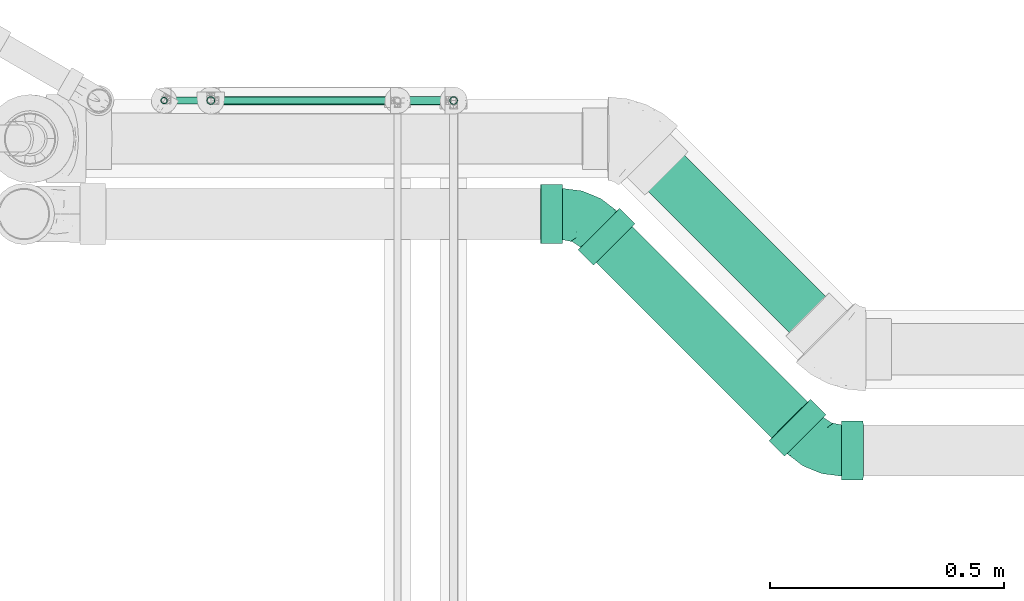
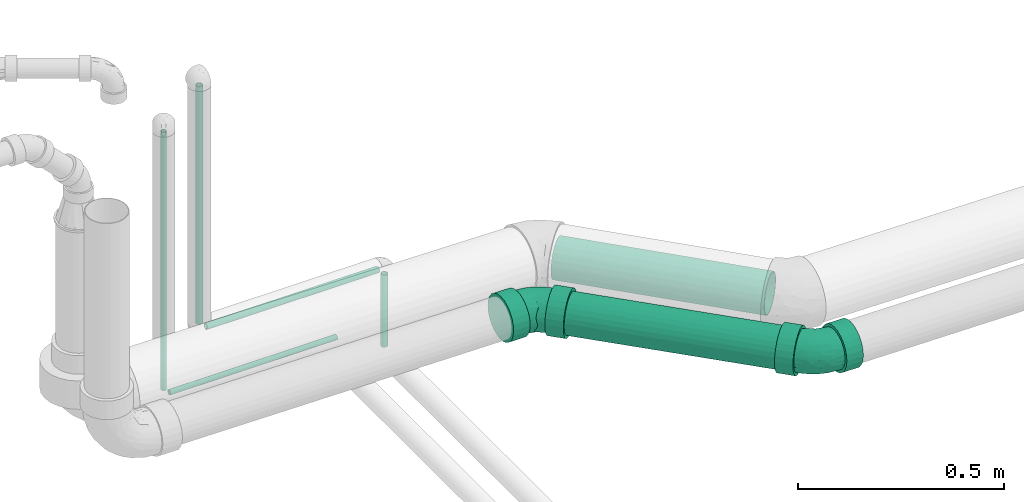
# One storey, part 33 of 78: 7 flow segments, 2 flow fittings.
"""IFC2X3 building model written with IfcOpenShell, lengths in millimetres."""

from ifc_helpers import new_model, entity, si_unit, converted_unit, derived_unit, direction, frame, origin_with_axes, origin_2d_with_axis, place, context, subcontext, project, spatial, hollow_circle, extrude, open_shell, surface_model, source, transform, mapped, type_object, element, save


model = new_model("IFC2X3")

# Units and contexts
model_context = context("Model", 3, precision=0.01, world=frame((0.0, 4.29681676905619e-09, 0.0)), true_north=direction((4.01073788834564e-13, 1.0)))
plan_context = context("Plan", 3, precision=0.01, world=frame((0.0, 4.29681676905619e-09, 0.0)), true_north=direction((4.01073788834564e-13, 1.0)))
body_context = subcontext(model_context, "Body", "Model", "MODEL_VIEW")
ifc_project = project(units=[converted_unit("PLANEANGLEUNIT", "DEGREE", entity("IfcPositiveLengthMeasure", 0.0174532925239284), si_unit("PLANEANGLEUNIT", "RADIAN"), dimensions=[0, 0, 0, 0, 0, 0, 0]), si_unit("AREAUNIT", "SQUARE_METRE"), si_unit("LENGTHUNIT", "METRE", prefix="MILLI"), si_unit("MASSUNIT", "GRAM", prefix="KILO"), si_unit("POWERUNIT", "WATT"), si_unit("PRESSUREUNIT", "PASCAL"), si_unit("FORCEUNIT", "NEWTON", prefix="KILO"), si_unit("ELECTRICVOLTAGEUNIT", "VOLT"), si_unit("ELECTRICCURRENTUNIT", "AMPERE"), si_unit("THERMODYNAMICTEMPERATUREUNIT", "DEGREE_CELSIUS"), si_unit("TIMEUNIT", "SECOND"), si_unit("VOLUMEUNIT", "CUBIC_METRE"), derived_unit("LINEARVELOCITYUNIT", [(si_unit("LENGTHUNIT", "METRE"), 1), (si_unit("TIMEUNIT", "SECOND"), -1)]), derived_unit("VOLUMETRICFLOWRATEUNIT", [(si_unit("VOLUMEUNIT", "CUBIC_METRE"), 1), (si_unit("TIMEUNIT", "SECOND"), -1)]), derived_unit("THERMALTRANSMITTANCEUNIT", [(si_unit("POWERUNIT", "WATT"), 1), (si_unit("THERMODYNAMICTEMPERATUREUNIT", "KELVIN"), -1), (si_unit("AREAUNIT", "SQUARE_METRE"), -1)]), derived_unit("SOUNDPRESSUREUNIT", [(si_unit("PRESSUREUNIT", "PASCAL"), 1)])], contexts=[model_context, plan_context])

# Site, building, storey
site_placement = place(None, frame((0.0, -4.29681676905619e-09, 0.0), z_axis=(0.0, 0.0, 1.0), x_axis=(1.0, 0.0, 0.0)))
site = spatial("IfcSite", under=ifc_project, at=site_placement, Name="ENGM", CompositionType="ELEMENT")
building_placement = place(site_placement, frame((0.0, 4.29681676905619e-09, 0.0), z_axis=(0.0, 0.0, 1.0), x_axis=(1.0, 0.0, 0.0)))
building = spatial("IfcBuilding", under=site, at=building_placement, Name="TH", CompositionType="ELEMENT")
storey_placement = place(building_placement, frame((0.0, 0.0, 205200.0), z_axis=(0.0, 0.0, 1.0), x_axis=(1.0, 0.0, 0.0)))
storey = spatial("IfcBuildingStorey", under=building, at=storey_placement, Name="Nivå D + 1,2 m", CompositionType="ELEMENT", Elevation=205200.0)

# Flow fittings
pipe_fitting_type = type_object("IfcPipeFittingType", Name="magi_sewer_bend_NOR", PredefinedType="BEND")
shared_shape_1 = source(origin_with_axes(), body_context, "Body", "SurfaceModel", [
    surface_model("IfcShellBasedSurfaceModel", [(-92.06082, -31.5, -54.5596), (-92.06082, 0.0, -63.0), (-92.06082, -16.3056, -60.85333), (-92.06082, -60.85333, -16.3056), (-92.06082, -44.54773, -44.54773), (-92.06082, 31.5, -54.5596), (-92.06082, -54.5596, -31.5), (-92.06082, 54.5596, -31.5), (-92.06082, -63.0, 0.0), (-92.06082, 16.3056, -60.85333), (-92.06082, 44.54773, -44.54773), (-92.06082, 63.0, 0.0), (-92.06082, 60.85333, -16.3056), (-92.06082, 54.5596, 31.5), (-92.06082, -60.85333, 16.3056), (-92.06082, -54.5596, 31.5), (-92.06082, -44.54773, 44.54773), (-92.06082, 0.0, 63.0), (-92.06082, -31.5, 54.5596), (-92.06082, -16.3056, 60.85333), (-92.06082, 31.5, 54.5596), (-92.06082, 60.85333, 16.3056), (-92.06082, 44.54773, 44.54773), (-92.06082, 16.3056, 60.85333), (-45.56082, 0.0, 63.0), (-45.56082, -16.3056, 60.85333), (-45.56082, -31.5, 54.5596), (-45.56082, -44.54773, 44.54773), (-45.56082, -54.5596, 31.5), (-45.56082, -60.85333, 16.3056), (-45.56082, 54.5596, 31.5), (-45.56082, -63.0, 0.0), (-45.56082, 31.5, 54.5596), (-45.56082, 44.54773, 44.54773), (-45.56082, 16.3056, 60.85333), (-45.56082, 63.0, 0.0), (-45.56082, 60.85333, 16.3056), (-45.56082, 54.5596, -31.5), (-45.56082, -60.85333, -16.3056), (-45.56082, -44.54773, -44.54773), (-45.56082, -54.5596, -31.5), (-45.56082, -31.5, -54.5596), (-45.56082, 31.5, -54.5596), (-45.56082, -16.3056, -60.85333), (-45.56082, 0.0, -63.0), (-45.56082, 44.54773, -44.54773), (-45.56082, 60.85333, -16.3056), (-45.56082, 16.3056, -60.85333), (26.52166, 103.67519, 31.5), (20.55365, 109.64371, 0.0), (22.07151, 108.12572, 16.3056), (53.5702, 76.62441, 60.85333), (33.60083, 96.59544, 44.54773), (26.52166, 103.67519, -31.5), (42.82659, 87.36892, 54.5596), (65.09953, 65.09414, 63.0), (22.07151, 108.12572, -16.3056), (42.82659, 87.36892, -54.5596), (33.60083, 96.59544, -44.54773), (65.09953, 65.09414, -63.0), (53.5702, 76.62441, -60.85333), (87.37247, 42.81935, -54.5596), (76.62885, 53.56386, 60.85333), (87.37247, 42.81935, 54.5596), (96.59823, 33.59283, 44.54773), (108.12755, 22.06255, 16.3056), (103.67739, 26.51308, 31.5), (108.12755, 22.06255, -16.3056), (109.64541, 20.54456, 0.0), (76.62885, 53.56386, -60.85333), (96.59823, 33.59283, -44.54773), (103.67739, 26.51308, -31.5), (76.76358, -12.33454, 0.0), (75.24572, -10.81655, 16.3056), (70.79557, -6.36603, 31.5), (70.79557, -6.36603, -31.5), (54.49064, 9.94025, 54.5596), (63.7164, 0.71373, 44.54773), (20.68838, 43.74531, 60.85333), (54.49064, 9.94025, -54.5596), (63.7164, 0.71373, -44.54773), (75.24572, -10.81655, -16.3056), (32.2177, 32.21503, -63.0), (43.74703, 20.68475, -60.85333), (9.94476, 54.48982, -54.5596), (32.2177, 32.21503, 63.0), (43.74703, 20.68475, 60.85333), (-6.36016, 70.79609, -31.5), (0.71901, 63.71634, 44.54773), (9.94476, 54.48982, 54.5596), (-6.36016, 70.79609, 31.5), (-10.81032, 75.24662, 16.3056), (0.71901, 63.71634, -44.54773), (20.68838, 43.74531, -60.85333), (-12.32818, 76.7646, 0.0), (-10.81032, 75.24662, -16.3056), (-45.56082, 14.23505, -53.12592), (-45.56082, 0.0, -55.0), (-45.56082, 38.89087, -38.89087), (-45.56082, 27.5, -47.63139), (-45.56082, -47.63139, -27.5), (-45.56082, 47.63139, -27.5), (-45.56082, 53.12592, 14.23505), (-45.56082, -14.23505, -53.12592), (-45.56082, -27.5, -47.63139), (-45.56082, -38.89087, -38.89087), (-45.56082, -53.12592, -14.23505), (-45.56082, -55.0, 0.0), (-45.56082, -47.63139, 27.5), (-45.56082, 53.12592, -14.23505), (-45.56082, 47.63139, 27.5), (-45.56082, 27.5, 47.63139), (-45.56082, 38.89087, 38.89087), (-45.56082, 14.23505, 53.12592), (-45.56082, 0.0, 55.0), (-45.56082, -38.89087, 38.89087), (-45.56082, -27.5, 47.63139), (-45.56082, -53.12592, 14.23505), (-45.56082, -14.23505, 53.12592), (-45.56082, 55.0, 0.0), (-5.34644, 69.78229, -14.23505), (32.2177, 32.21503, -55.0), (22.15242, 42.28115, -53.12592), (4.71884, 59.71617, -38.89087), (12.77307, 51.66127, -47.63139), (-1.46139, 65.89691, -27.5), (59.71656, 4.71389, -38.89087), (51.66233, 12.76879, -47.63139), (42.28298, 22.14892, -53.12592), (65.89679, -1.46685, -27.5), (71.10697, -6.67745, 0.0), (69.78185, -5.35222, -14.23505), (65.89679, -1.46685, 27.5), (-6.67156, 71.10751, 0.0), (4.71884, 59.71617, 38.89087), (-5.34644, 69.78229, 14.23505), (-1.46139, 65.89691, 27.5), (12.77307, 51.66127, 47.63139), (22.15242, 42.28115, 53.12592), (32.2177, 32.21503, 55.0), (51.66233, 12.76879, 47.63139), (59.71656, 4.71389, 38.89087), (69.78185, -5.35222, 14.23505), (42.28298, 22.14892, 53.12592), (14.00778, -33.81974, 30.65014), (-12.16629, -31.08486, 42.44025), (-17.75771, -42.06457, 32.20469), (-18.37385, -51.42096, 0.0), (-2.85788, -49.37835, 0.0), (-11.73778, -50.67069, 9.39198), (42.30003, -17.18929, 32.20469), (-21.79192, -20.16817, 50.26724), (5.64726, -13.6345, 49.57433), (1.63347, 33.06398, 51.3346), (9.94219, 26.03311, 54.19994), (-16.41313, -5.29559, 54.27137), (-5.2307, 12.62876, 54.80671), (-27.55609, 7.62134, 54.66621), (-15.62176, 37.71647, 44.90216), (-24.2523, 46.12563, 34.70863), (29.67032, 1.14694, 50.26724), (-21.1305, 22.88699, 51.41721), (21.2239, -35.99854, 21.67636), (-9.86029, -47.58356, 19.10026), (17.07559, -41.22654, 11.95486), (-22.65603, 54.6997, 22.59621), (44.12831, -27.53155, 9.39198), (49.35142, -23.36988, 0.0), (-22.02915, 58.93321, 11.55606), (40.61783, -26.67606, 19.10026), (15.35071, 7.86065, 54.27137), (30.58263, -13.37871, 42.44025), (-24.51429, 59.18619, 0.0), (9.23126, -22.28753, 43.86006), (17.03868, -41.13741, 0.0), (36.93523, -32.89647, 0.0), (-16.41313, -5.29559, -54.27137), (-11.73779, -50.67069, -9.39197), (17.07559, -41.22654, -11.95486), (15.35071, 7.86065, -54.27137), (-24.53388, 22.22575, -51.3346), (-25.43791, 11.37906, -54.19994), (-15.46472, 49.76535, -34.70863), (30.58263, -13.37871, -42.44025), (-22.65603, 54.6997, -22.59621), (40.61783, -26.67606, -19.10026), (-26.09274, 57.25011, -11.55606), (-1.24074, 31.12512, -51.41721), (-9.86029, -47.58356, -19.10026), (-15.62176, 37.71647, -44.90217), (-17.75771, -42.06457, -32.20469), (-12.16629, -31.08486, -42.44025), (9.23126, -22.28753, -43.86006), (14.00778, -33.81974, -30.65014), (-21.79192, -20.16817, -50.26724), (29.67032, 1.14694, -50.26724), (5.64726, -13.6345, -49.57433), (44.12831, -27.53155, -9.39197), (14.09703, 24.87362, -54.66621), (10.44557, -40.46281, -21.67636), (42.30003, -17.18929, -32.20469), (-5.2307, 12.62876, -54.80671)], [open_shell([[[0, 1, 2]], [[3, 0, 4]], [[5, 0, 3]], [[3, 4, 6]], [[7, 3, 8]], [[1, 5, 9]], [[1, 0, 5]], [[5, 7, 10]], [[3, 7, 5]], [[7, 11, 12]], [[7, 8, 13]], [[14, 15, 16]], [[14, 16, 17]], [[18, 19, 17]], [[18, 17, 16]], [[14, 17, 20]], [[11, 13, 21]], [[7, 13, 11]], [[13, 20, 22]], [[14, 20, 13]], [[17, 23, 20]], [[13, 8, 14]], [[24, 25, 26]], [[24, 26, 27]], [[27, 28, 29]], [[24, 27, 30]], [[27, 31, 30]], [[32, 30, 33]], [[32, 34, 24]], [[30, 35, 36]], [[30, 32, 24]], [[37, 35, 30]], [[27, 29, 31]], [[38, 37, 31]], [[39, 38, 40]], [[38, 41, 42]], [[41, 38, 39]], [[43, 44, 41]], [[37, 42, 45]], [[46, 35, 37]], [[42, 44, 47]], [[42, 37, 38]], [[44, 42, 41]], [[37, 30, 31]], [[46, 12, 35]], [[37, 7, 46]], [[5, 45, 42]], [[37, 45, 10]], [[9, 42, 47]], [[46, 7, 12]], [[12, 11, 35]], [[9, 5, 42]], [[10, 45, 5]], [[10, 7, 37]], [[1, 9, 47]], [[47, 44, 1]], [[0, 41, 39]], [[6, 40, 38]], [[39, 40, 4]], [[31, 3, 38]], [[41, 2, 43]], [[41, 0, 2]], [[2, 1, 43]], [[39, 4, 0]], [[40, 6, 4]], [[3, 6, 38]], [[31, 8, 3]], [[43, 1, 44]], [[29, 14, 31]], [[28, 15, 29]], [[18, 27, 26]], [[28, 27, 16]], [[19, 26, 25]], [[29, 15, 14]], [[14, 8, 31]], [[19, 18, 26]], [[16, 27, 18]], [[16, 15, 28]], [[17, 19, 25]], [[25, 24, 17]], [[23, 34, 32]], [[33, 20, 32]], [[13, 30, 36]], [[33, 30, 22]], [[21, 36, 35]], [[34, 23, 24]], [[32, 20, 23]], [[24, 23, 17]], [[33, 22, 20]], [[30, 13, 22]], [[21, 13, 36]], [[35, 11, 21]], [[48, 49, 50]], [[51, 48, 52]], [[53, 48, 51]], [[51, 52, 54]], [[53, 51, 55]], [[49, 53, 56]], [[49, 48, 53]], [[53, 57, 58]], [[57, 53, 59]], [[59, 60, 57]], [[61, 53, 55]], [[62, 63, 64]], [[62, 64, 65]], [[62, 65, 61]], [[65, 64, 66]], [[67, 65, 68]], [[59, 61, 69]], [[53, 61, 59]], [[70, 67, 71]], [[67, 70, 61]], [[65, 67, 61]], [[61, 55, 62]], [[72, 73, 74]], [[75, 72, 74]], [[75, 74, 76]], [[76, 74, 77]], [[78, 79, 76]], [[75, 79, 80]], [[75, 81, 72]], [[79, 82, 83]], [[79, 75, 76]], [[84, 82, 79]], [[85, 76, 86]], [[79, 78, 87]], [[88, 78, 89]], [[87, 88, 90]], [[87, 78, 88]], [[91, 87, 90]], [[84, 87, 92]], [[93, 82, 84]], [[87, 94, 95]], [[84, 79, 87]], [[94, 87, 91]], [[76, 85, 78]], [[93, 60, 82]], [[84, 57, 93]], [[53, 92, 87]], [[84, 92, 58]], [[56, 87, 95]], [[93, 57, 60]], [[60, 59, 82]], [[56, 53, 87]], [[58, 92, 53]], [[58, 57, 84]], [[49, 56, 95]], [[95, 94, 49]], [[48, 90, 88]], [[54, 89, 78]], [[88, 89, 52]], [[85, 51, 78]], [[90, 50, 91]], [[90, 48, 50]], [[50, 49, 91]], [[88, 52, 48]], [[89, 54, 52]], [[51, 54, 78]], [[85, 55, 51]], [[91, 49, 94]], [[86, 62, 85]], [[76, 63, 86]], [[66, 77, 74]], [[76, 77, 64]], [[65, 74, 73]], [[86, 63, 62]], [[62, 55, 85]], [[65, 66, 74]], [[64, 77, 66]], [[64, 63, 76]], [[68, 65, 73]], [[73, 72, 68]], [[67, 81, 75]], [[80, 71, 75]], [[61, 79, 83]], [[80, 79, 70]], [[69, 83, 82]], [[81, 67, 72]], [[75, 71, 67]], [[72, 67, 68]], [[80, 70, 71]], [[79, 61, 70]], [[69, 61, 83]], [[82, 59, 69]], [[96, 97, 98]], [[99, 96, 98]], [[100, 101, 97]], [[98, 97, 101]], [[101, 100, 102]], [[103, 104, 97]], [[104, 105, 97]], [[106, 107, 100]], [[100, 97, 105]], [[107, 108, 100]], [[109, 101, 102]], [[110, 102, 100]], [[110, 100, 108]], [[111, 112, 108]], [[108, 112, 110]], [[113, 111, 114]], [[115, 116, 108]], [[108, 107, 117]], [[118, 114, 116]], [[108, 116, 114]], [[108, 114, 111]], [[102, 119, 109]], [[120, 121, 122]], [[123, 122, 124]], [[123, 125, 120]], [[123, 120, 122]], [[121, 120, 126]], [[121, 127, 128]], [[121, 126, 127]], [[129, 130, 131]], [[126, 120, 129]], [[129, 132, 130]], [[129, 120, 133]], [[134, 133, 135]], [[134, 135, 136]], [[134, 137, 138]], [[133, 134, 132]], [[139, 134, 138]], [[132, 140, 141]], [[142, 130, 132]], [[140, 139, 143]], [[139, 140, 132]], [[134, 139, 132]], [[132, 129, 133]], [[144, 145, 146]], [[147, 148, 149]], [[116, 115, 145]], [[132, 141, 150]], [[151, 145, 152]], [[146, 145, 115]], [[138, 153, 154]], [[118, 116, 151]], [[155, 156, 157]], [[114, 118, 155]], [[112, 158, 159]], [[140, 143, 160]], [[157, 113, 114]], [[111, 161, 158]], [[117, 147, 149]], [[137, 134, 158]], [[162, 163, 164]], [[158, 112, 111]], [[115, 108, 146]], [[110, 159, 165]], [[102, 110, 165]], [[142, 166, 167]], [[168, 119, 102]], [[169, 162, 164]], [[163, 149, 164]], [[111, 113, 161]], [[139, 154, 170]], [[141, 140, 171]], [[136, 135, 165]], [[170, 143, 139]], [[144, 146, 163]], [[141, 171, 150]], [[156, 154, 153]], [[171, 140, 160]], [[108, 163, 146]], [[166, 142, 169]], [[144, 150, 171]], [[157, 161, 113]], [[144, 162, 150]], [[102, 165, 168]], [[108, 117, 163]], [[172, 168, 133]], [[145, 173, 152]], [[135, 168, 165]], [[152, 170, 155]], [[136, 165, 159]], [[152, 160, 170]], [[136, 159, 134]], [[156, 155, 170]], [[138, 137, 153]], [[153, 158, 161]], [[151, 155, 118]], [[110, 112, 159]], [[169, 142, 132]], [[169, 132, 150]], [[173, 144, 171]], [[134, 159, 158]], [[158, 153, 137]], [[156, 153, 161]], [[145, 151, 116]], [[155, 151, 152]], [[170, 160, 143]], [[171, 160, 152]], [[117, 107, 147]], [[164, 148, 174]], [[117, 149, 163]], [[148, 164, 149]], [[166, 164, 175]], [[167, 166, 175]], [[167, 130, 142]], [[164, 166, 169]], [[170, 154, 156]], [[139, 138, 154]], [[155, 157, 114]], [[161, 157, 156]], [[144, 173, 145]], [[171, 152, 173]], [[133, 168, 135]], [[168, 172, 119]], [[150, 162, 169]], [[163, 162, 144]], [[175, 164, 174]], [[103, 97, 176]], [[148, 177, 178]], [[121, 128, 179]], [[180, 181, 96]], [[101, 182, 98]], [[127, 126, 183]], [[184, 182, 101]], [[129, 131, 185]], [[109, 186, 184]], [[124, 122, 187]], [[106, 177, 147]], [[99, 180, 96]], [[177, 106, 188]], [[123, 189, 182]], [[188, 100, 190]], [[190, 105, 191]], [[105, 104, 191]], [[192, 193, 191]], [[106, 100, 188]], [[105, 190, 100]], [[194, 104, 103]], [[195, 179, 128]], [[120, 125, 184]], [[196, 194, 176]], [[119, 172, 186]], [[193, 190, 191]], [[133, 120, 186]], [[196, 176, 179]], [[123, 124, 189]], [[184, 101, 109]], [[125, 182, 184]], [[194, 191, 104]], [[187, 189, 124]], [[181, 176, 97]], [[189, 187, 180]], [[98, 189, 99]], [[131, 167, 197]], [[198, 122, 121]], [[195, 128, 127]], [[199, 185, 178]], [[126, 200, 183]], [[196, 195, 183]], [[126, 129, 200]], [[201, 198, 179]], [[200, 193, 183]], [[201, 179, 176]], [[197, 167, 175]], [[198, 187, 122]], [[201, 181, 180]], [[177, 188, 178]], [[193, 199, 190]], [[183, 192, 196]], [[129, 185, 200]], [[120, 184, 186]], [[193, 200, 185]], [[125, 123, 182]], [[98, 182, 189]], [[189, 180, 99]], [[201, 180, 187]], [[176, 194, 103]], [[191, 194, 196]], [[183, 195, 127]], [[179, 195, 196]], [[147, 177, 148]], [[147, 107, 106]], [[199, 178, 188]], [[197, 178, 185]], [[178, 175, 174]], [[131, 130, 167]], [[178, 197, 175]], [[131, 197, 185]], [[176, 181, 201]], [[97, 96, 181]], [[179, 198, 121]], [[187, 198, 201]], [[193, 192, 183]], [[191, 196, 192]], [[119, 186, 109]], [[186, 172, 133]], [[190, 199, 188]], [[185, 199, 193]], [[148, 178, 174]]])]),
])
for number, where, z_axis, x_axis, name in (
    (1, (900795.33738, 482601.83076, 4383.26745000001), (0.00999900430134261, -0.00414200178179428, 0.999941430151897), (0.707071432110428, -0.707071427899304, -0.00999928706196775), "magi_sewer_bend_NOR"),
    (2, (900289.04984, 483108.11831, 4390.42743000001), (0.00999900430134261, -0.00414200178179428, 0.999941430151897), (-0.707071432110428, 0.707071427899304, 0.00999928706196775), "magi_sewer_bend_NOR"),
):
    element("IfcFlowFitting", number, at=place(storey_placement, frame(where, z_axis=z_axis, x_axis=x_axis)), inside=storey, type_object=pipe_fitting_type, Name=name, context=body_context, shape_type="MappedRepresentation", body=[
        mapped(shared_shape_1, transform((0.0, 0.0, 0.0), scale=1.0)),
    ])

# Flow segments
pipe_segment_type_1 = type_object("IfcPipeSegmentType", Name="Kobberrør", PredefinedType="RIGIDSEGMENT")
shared_shape_2 = source(origin_with_axes(), body_context, "Body", "SweptSolid", [
    extrude(hollow_circle(Radius=9.0, WallThickness=2.0, at=origin_2d_with_axis()), frame((0.0, 0.0, 0.0), z_axis=(1.0, 0.0, 0.0), x_axis=(0.0, 1.0, 0.0)), (0.0, 0.0, 1.0), 706.1),
])
flow_segment_1_placement = place(storey_placement, frame((899490.50163, 483351.12945, 4478.0), z_axis=(1.0, 0.0, 0.0), x_axis=(0.0, -5.999999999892e-06, 0.999999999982)))
element("IfcFlowSegment", 3, at=flow_segment_1_placement, inside=storey, type_object=pipe_segment_type_1, Name="Kobberrør", context=body_context, shape_type="MappedRepresentation", body=[
    mapped(shared_shape_2, transform((0.0, 0.0, 0.0), scale=1.0)),
])
shared_shape_3 = source(origin_with_axes(), body_context, "Body", "SweptSolid", [
    extrude(hollow_circle(Radius=7.5, WallThickness=2.0, at=origin_2d_with_axis()), frame((0.0, 0.0, 0.0), z_axis=(1.0, 0.0, 0.0), x_axis=(0.0, 1.0, 0.0)), (0.0, 0.0, 1.0), 767.1),
])
flow_segment_2_placement = place(storey_placement, frame((899390.50163, 483351.12945, 4315.0), z_axis=(0.0, 1.0, 0.0), x_axis=(0.0, 0.0, 1.0)))
element("IfcFlowSegment", 4, at=flow_segment_2_placement, inside=storey, type_object=pipe_segment_type_1, Name="Kobberrør", context=body_context, shape_type="MappedRepresentation", body=[
    mapped(shared_shape_3, transform((0.0, 0.0, 0.0), scale=1.0)),
])
pipe_segment_type_2 = type_object("IfcPipeSegmentType", Name="MA", PredefinedType="RIGIDSEGMENT")
shared_shape_4 = source(origin_with_axes(), body_context, "Body", "SweptSolid", [
    extrude(hollow_circle(Radius=55.0, WallThickness=2.0, at=origin_2d_with_axis()), frame((0.0, 0.0, 0.0), z_axis=(1.0, 0.0, 0.0), x_axis=(0.0, 1.0, 0.0)), (0.0, 0.0, 1.0), 624.9),
])
flow_segment_3_placement = place(storey_placement, frame((900763.12262, 482634.04552, 4383.72302999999), z_axis=(-0.707071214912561, -0.707130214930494, 0.00414200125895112), x_axis=(-0.707071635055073, 0.707071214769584, 0.0100000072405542)))
element("IfcFlowSegment", 5, at=flow_segment_3_placement, inside=storey, type_object=pipe_segment_type_2, Name="MA", context=body_context, shape_type="MappedRepresentation", body=[
    mapped(shared_shape_4, transform((0.0, 0.0, 0.0), scale=1.0)),
])
pipe_segment_type_3 = type_object("IfcPipeSegmentType", Name="SUPER MA", PredefinedType="RIGIDSEGMENT")
shared_shape_5 = source(origin_with_axes(), body_context, "Body", "SweptSolid", [
    extrude(hollow_circle(Radius=55.0, WallThickness=2.0, at=origin_2d_with_axis()), frame((0.0, 0.0, 0.0), z_axis=(1.0, 0.0, 0.0), x_axis=(0.0, 1.0, 0.0)), (0.0, 0.0, 1.0), 537.4),
])
flow_segment_4_placement = place(storey_placement, frame((900426.98966, 483234.01728, 4413.55923000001), z_axis=(0.0113490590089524, -0.0113490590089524, 0.999871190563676), x_axis=(0.707015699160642, -0.707015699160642, -0.0160499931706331)))
element("IfcFlowSegment", 6, at=flow_segment_4_placement, inside=storey, type_object=pipe_segment_type_3, Name="SUPER MA", context=body_context, shape_type="MappedRepresentation", body=[
    mapped(shared_shape_5, transform((0.0, 0.0, 0.0), scale=1.0)),
])
shared_shape_6 = source(origin_with_axes(), body_context, "Body", "SweptSolid", [
    extrude(hollow_circle(Radius=9.0, WallThickness=2.0, at=origin_2d_with_axis()), frame((0.0, 0.0, 0.0), z_axis=(1.0, 0.0, 0.0), x_axis=(0.0, 1.0, 0.0)), (0.0, 0.0, 1.0), 484.0),
])
flow_segment_5_placement = place(storey_placement, frame((899992.50163, 483351.12927, 4460.0), z_axis=(0.0, 0.0, 1.0), x_axis=(-1.0, 0.0, 0.0)))
element("IfcFlowSegment", 7, at=flow_segment_5_placement, inside=storey, type_object=pipe_segment_type_1, Name="Kobberrør", context=body_context, shape_type="MappedRepresentation", body=[
    mapped(shared_shape_6, transform((0.0, 0.0, 0.0), scale=1.0)),
])
shared_shape_7 = source(origin_with_axes(), body_context, "Body", "SweptSolid", [
    extrude(hollow_circle(Radius=7.5, WallThickness=2.0, at=origin_2d_with_axis()), frame((0.0, 0.0, 0.0), z_axis=(1.0, 0.0, 0.0), x_axis=(0.0, 1.0, 0.0)), (0.0, 0.0, 1.0), 470.0),
])
flow_segment_6_placement = place(storey_placement, frame((899405.50163, 483351.12945, 4300.0), z_axis=(0.0, 0.0, 1.0), x_axis=(1.0, 0.0, 0.0)))
element("IfcFlowSegment", 8, at=flow_segment_6_placement, inside=storey, type_object=pipe_segment_type_1, Name="Kobberrør", context=body_context, shape_type="MappedRepresentation", body=[
    mapped(shared_shape_7, transform((0.0, 0.0, 0.0), scale=1.0)),
])
shared_shape_8 = source(origin_with_axes(), body_context, "Body", "SweptSolid", [
    extrude(hollow_circle(Radius=9.0, WallThickness=2.0, at=origin_2d_with_axis()), frame((0.0, 0.0, 0.0), z_axis=(1.0, 0.0, 0.0), x_axis=(0.0, 1.0, 0.0)), (0.0, 0.0, 1.0), 214.0),
])
flow_segment_7_placement = place(storey_placement, frame((900010.50163, 483351.12926, 4228.0), z_axis=(1.0, 0.0, 0.0), x_axis=(0.0, 0.0, 1.0)))
element("IfcFlowSegment", 9, at=flow_segment_7_placement, inside=storey, type_object=pipe_segment_type_1, Name="Kobberrør", context=body_context, shape_type="MappedRepresentation", body=[
    mapped(shared_shape_8, transform((0.0, 0.0, 0.0), scale=1.0)),
])

save(model, "model.ifc")
